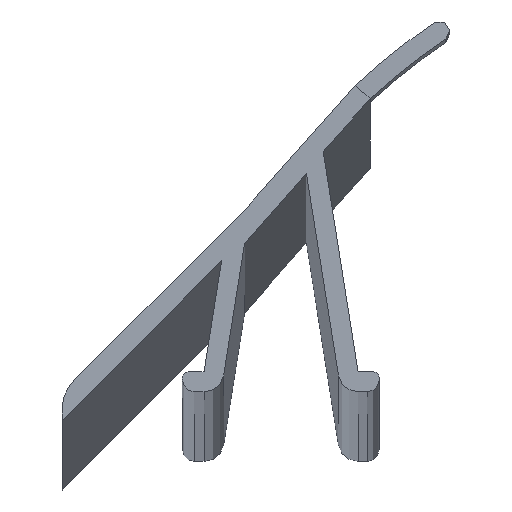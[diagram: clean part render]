
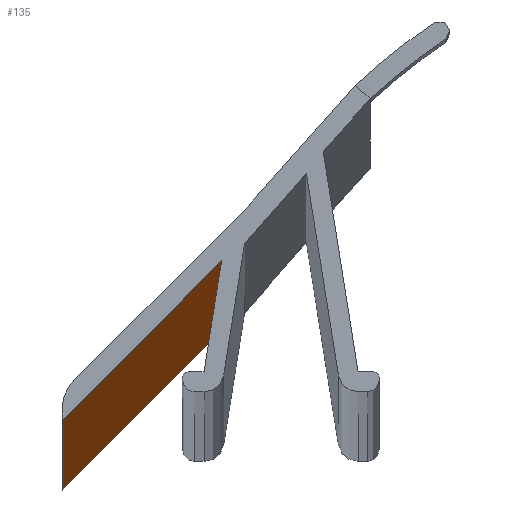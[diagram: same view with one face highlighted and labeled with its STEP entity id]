
A CAD part, top view. The second image highlights one B-rep face of the part: STEP entity #135.
In plain terms, the highlighted planar face has unit normal (0.707, -0.707, 0).
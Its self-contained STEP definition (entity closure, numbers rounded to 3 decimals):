
#12 = DIRECTION ( 'NONE',  ( 0.707, 0.707, 0. ) ) ;
#17 = DIRECTION ( 'NONE',  ( 0.707, 0.707, 0. ) ) ;
#75 = CARTESIAN_POINT ( 'NONE',  ( 8., 8., 1000. ) ) ;
#132 = ORIENTED_EDGE ( 'NONE', *, *, #374, .F. ) ;
#135 = ADVANCED_FACE ( 'NONE', ( #734 ), #339, .T. ) ;
#167 = EDGE_CURVE ( 'NONE', #693, #1026, #888, .T. ) ;
#179 = LINE ( 'NONE', #817, #328 ) ;
#192 = DIRECTION ( 'NONE',  ( 0., 0., 1. ) ) ;
#223 = EDGE_LOOP ( 'NONE', ( #132, #891, #432, #225 ) ) ;
#225 = ORIENTED_EDGE ( 'NONE', *, *, #603, .T. ) ;
#250 = CARTESIAN_POINT ( 'NONE',  ( 8., 8., -1000. ) ) ;
#255 = CARTESIAN_POINT ( 'NONE',  ( 8., 8., -1000. ) ) ;
#256 = AXIS2_PLACEMENT_3D ( 'NONE', #255, #647, #12 ) ;
#328 = VECTOR ( 'NONE', #892, 1000. ) ;
#330 = CARTESIAN_POINT ( 'NONE',  ( 0., 0., 1000. ) ) ;
#339 = PLANE ( 'NONE',  #256 ) ;
#374 = EDGE_CURVE ( 'NONE', #419, #961, #800, .T. ) ;
#419 = VERTEX_POINT ( 'NONE', #330 ) ;
#432 = ORIENTED_EDGE ( 'NONE', *, *, #167, .T. ) ;
#581 = CARTESIAN_POINT ( 'NONE',  ( 8., 8., 1000. ) ) ;
#603 = EDGE_CURVE ( 'NONE', #1026, #961, #654, .T. ) ;
#620 = EDGE_CURVE ( 'NONE', #693, #419, #179, .T. ) ;
#647 = DIRECTION ( 'NONE',  ( 0.707, -0.707, 0. ) ) ;
#654 = LINE ( 'NONE', #971, #801 ) ;
#693 = VERTEX_POINT ( 'NONE', #776 ) ;
#707 = VECTOR ( 'NONE', #878, 1000. ) ;
#734 = FACE_OUTER_BOUND ( 'NONE', #223, .T. ) ;
#776 = CARTESIAN_POINT ( 'NONE',  ( 0., 0., -1000. ) ) ;
#784 = VECTOR ( 'NONE', #17, 1000. ) ;
#800 = LINE ( 'NONE', #75, #707 ) ;
#801 = VECTOR ( 'NONE', #192, 1000. ) ;
#817 = CARTESIAN_POINT ( 'NONE',  ( 0., 0., -1000. ) ) ;
#878 = DIRECTION ( 'NONE',  ( 0.707, 0.707, 0. ) ) ;
#888 = LINE ( 'NONE', #250, #784 ) ;
#891 = ORIENTED_EDGE ( 'NONE', *, *, #620, .F. ) ;
#892 = DIRECTION ( 'NONE',  ( 0., 0., 1. ) ) ;
#961 = VERTEX_POINT ( 'NONE', #581 ) ;
#971 = CARTESIAN_POINT ( 'NONE',  ( 8., 8., -1000. ) ) ;
#986 = CARTESIAN_POINT ( 'NONE',  ( 8., 8., -1000. ) ) ;
#1026 = VERTEX_POINT ( 'NONE', #986 ) ;
